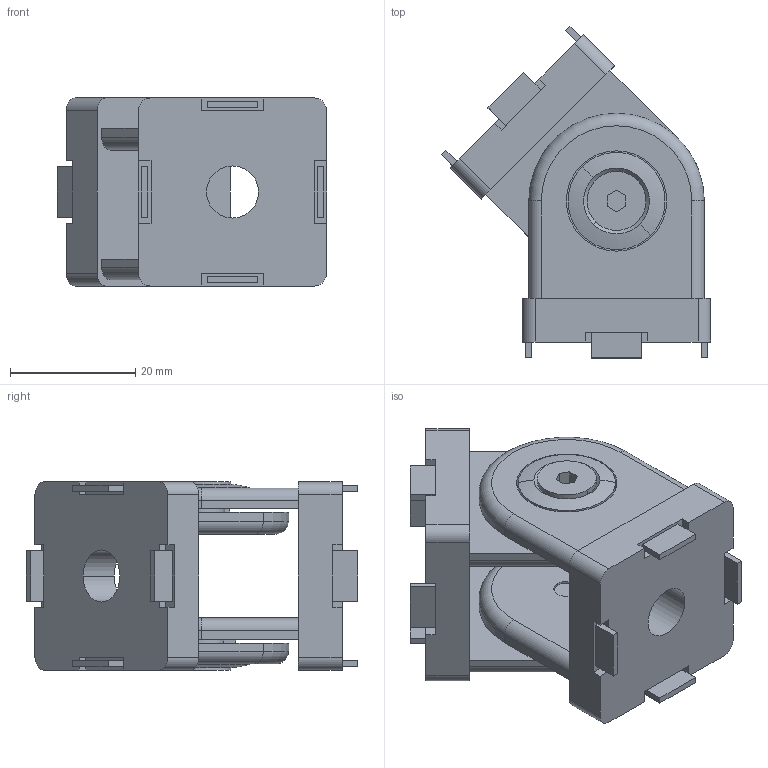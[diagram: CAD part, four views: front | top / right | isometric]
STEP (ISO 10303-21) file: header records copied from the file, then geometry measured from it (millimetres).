
FILE_DESCRIPTION( ( '' ), '1' );
FILE_NAME( '//partserver002.servicenet/client_exchange/iodir/jobs/output/wkb21324998_no0/STEP/fath_093g30an08_2_14a.stp', '2010-01-07T08:28:56', ( '' ), ( '' ), ' ', ' ', ' ' );
FILE_SCHEMA( ( 'automotive_design' ) );
Length unit declared in the file: millimetre
Products named in the file (6): 1; 2; 3; 4; 5; 6
Bounding box: 42.93 x 52.93 x 30 mm (x, y, z)
Volume: 21593.3 mm3; surface area: 14030.1 mm2
Topology: 6 solids, 6 shells, 244 faces, 612 edges, 400 vertices
Faces by surface type: plane 148, cylinder 76, cone 12, torus 8
Entity records: 14471 total; most frequent: DIRECTION 1296, STYLED_ITEM 1262, PRESENTATION_STYLE_ASSIGNMENT 1262, CARTESIAN_POINT 1262, COLOUR_RGB 1262, ORIENTED_EDGE 1224, EDGE_CURVE 612, CURVE_STYLE 612
